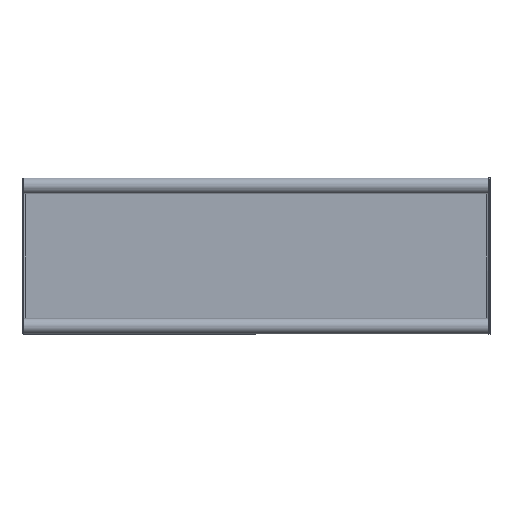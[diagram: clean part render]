
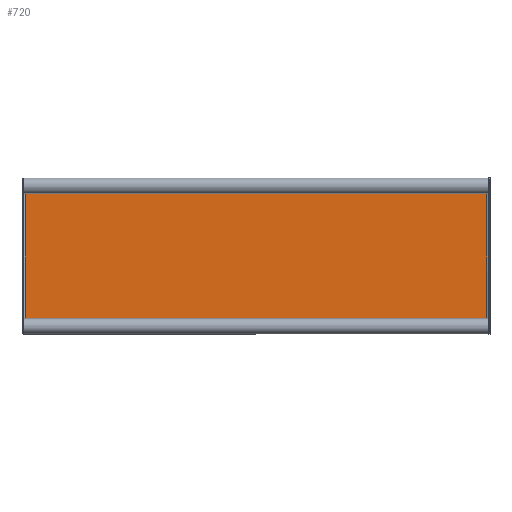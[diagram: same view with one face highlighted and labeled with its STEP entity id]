
A CAD part, front view. The second image highlights one B-rep face of the part: STEP entity #720.
In plain terms, the highlighted planar face has unit normal (0, -1, 0).
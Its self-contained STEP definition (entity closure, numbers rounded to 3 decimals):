
#164 = EDGE_CURVE ( 'NONE', #2296, #8844, #7960, .T. ) ;
#290 = VERTEX_POINT ( 'NONE', #9798 ) ;
#553 = VECTOR ( 'NONE', #976, 1000. ) ;
#720 = ADVANCED_FACE ( 'NONE', ( #1619 ), #7884, .F. ) ;
#858 = VECTOR ( 'NONE', #4653, 1000. ) ;
#860 = VERTEX_POINT ( 'NONE', #7512 ) ;
#873 = ORIENTED_EDGE ( 'NONE', *, *, #3010, .F. ) ;
#976 = DIRECTION ( 'NONE',  ( 0., 0., 1. ) ) ;
#988 = DIRECTION ( 'NONE',  ( 1., 0., 0. ) ) ;
#1012 = DIRECTION ( 'NONE',  ( 0., 1., 0. ) ) ;
#1208 = AXIS2_PLACEMENT_3D ( 'NONE', #3487, #5670, #6506 ) ;
#1446 = EDGE_CURVE ( 'NONE', #3736, #7652, #8292, .T. ) ;
#1525 = CIRCLE ( 'NONE', #1208, 5. ) ;
#1574 = CARTESIAN_POINT ( 'NONE',  ( -299., -2., -96. ) ) ;
#1619 = FACE_OUTER_BOUND ( 'NONE', #2719, .T. ) ;
#1638 = CIRCLE ( 'NONE', #7248, 5. ) ;
#1803 = DIRECTION ( 'NONE',  ( 0., -1., 0. ) ) ;
#1852 = CARTESIAN_POINT ( 'NONE',  ( -299., -2., -99. ) ) ;
#1920 = DIRECTION ( 'NONE',  ( 0., 0., 1. ) ) ;
#1975 = CARTESIAN_POINT ( 'NONE',  ( 296., -2., -99. ) ) ;
#2296 = VERTEX_POINT ( 'NONE', #3447 ) ;
#2519 = EDGE_CURVE ( 'NONE', #290, #2296, #6174, .T. ) ;
#2719 = EDGE_LOOP ( 'NONE', ( #5205, #3317, #7270, #6357, #7052, #5122, #873, #7266 ) ) ;
#3010 = EDGE_CURVE ( 'NONE', #3736, #6801, #9047, .T. ) ;
#3216 = EDGE_CURVE ( 'NONE', #6801, #290, #7842, .T. ) ;
#3317 = ORIENTED_EDGE ( 'NONE', *, *, #5074, .T. ) ;
#3326 = DIRECTION ( 'NONE',  ( 0., 0., 1. ) ) ;
#3447 = CARTESIAN_POINT ( 'NONE',  ( -295., -2., 96. ) ) ;
#3487 = CARTESIAN_POINT ( 'NONE',  ( 299., -2., 99. ) ) ;
#3736 = VERTEX_POINT ( 'NONE', #9483 ) ;
#3866 = CARTESIAN_POINT ( 'NONE',  ( -296., -2., -99. ) ) ;
#4224 = DIRECTION ( 'NONE',  ( 0., -1., 0. ) ) ;
#4267 = CARTESIAN_POINT ( 'NONE',  ( -299., -2., 99. ) ) ;
#4454 = CARTESIAN_POINT ( 'NONE',  ( 296., -2., -95. ) ) ;
#4585 = EDGE_CURVE ( 'NONE', #8844, #860, #1525, .T. ) ;
#4653 = DIRECTION ( 'NONE',  ( 1., 0., 0. ) ) ;
#4762 = AXIS2_PLACEMENT_3D ( 'NONE', #1852, #1803, #4876 ) ;
#4876 = DIRECTION ( 'NONE',  ( 0., 0., 1. ) ) ;
#5058 = CARTESIAN_POINT ( 'NONE',  ( 295., -2., 96. ) ) ;
#5074 = EDGE_CURVE ( 'NONE', #7071, #860, #5825, .T. ) ;
#5122 = ORIENTED_EDGE ( 'NONE', *, *, #3216, .F. ) ;
#5134 = DIRECTION ( 'NONE',  ( 0., -1., 0. ) ) ;
#5205 = ORIENTED_EDGE ( 'NONE', *, *, #6391, .F. ) ;
#5231 = CARTESIAN_POINT ( 'NONE',  ( 299., -2., -99. ) ) ;
#5670 = DIRECTION ( 'NONE',  ( 0., -1., 0. ) ) ;
#5825 = LINE ( 'NONE', #1975, #6163 ) ;
#6096 = CARTESIAN_POINT ( 'NONE',  ( -296., -2., -95. ) ) ;
#6163 = VECTOR ( 'NONE', #1920, 1000. ) ;
#6174 = CIRCLE ( 'NONE', #9691, 5. ) ;
#6232 = CARTESIAN_POINT ( 'NONE',  ( -299., -2., -99. ) ) ;
#6357 = ORIENTED_EDGE ( 'NONE', *, *, #164, .F. ) ;
#6391 = EDGE_CURVE ( 'NONE', #7071, #7652, #1638, .T. ) ;
#6449 = CARTESIAN_POINT ( 'NONE',  ( -299., -2., 96. ) ) ;
#6506 = DIRECTION ( 'NONE',  ( 0., 0., 1. ) ) ;
#6801 = VERTEX_POINT ( 'NONE', #6096 ) ;
#7052 = ORIENTED_EDGE ( 'NONE', *, *, #2519, .F. ) ;
#7071 = VERTEX_POINT ( 'NONE', #4454 ) ;
#7248 = AXIS2_PLACEMENT_3D ( 'NONE', #5231, #5134, #8220 ) ;
#7266 = ORIENTED_EDGE ( 'NONE', *, *, #1446, .T. ) ;
#7270 = ORIENTED_EDGE ( 'NONE', *, *, #4585, .F. ) ;
#7512 = CARTESIAN_POINT ( 'NONE',  ( 296., -2., 95. ) ) ;
#7652 = VERTEX_POINT ( 'NONE', #8703 ) ;
#7842 = LINE ( 'NONE', #3866, #553 ) ;
#7884 = PLANE ( 'NONE',  #8179 ) ;
#7960 = LINE ( 'NONE', #6449, #9678 ) ;
#8179 = AXIS2_PLACEMENT_3D ( 'NONE', #6232, #1012, #8685 ) ;
#8220 = DIRECTION ( 'NONE',  ( 0., 0., 1. ) ) ;
#8292 = LINE ( 'NONE', #1574, #858 ) ;
#8685 = DIRECTION ( 'NONE',  ( 0., 0., 1. ) ) ;
#8703 = CARTESIAN_POINT ( 'NONE',  ( 295., -2., -96. ) ) ;
#8844 = VERTEX_POINT ( 'NONE', #5058 ) ;
#9047 = CIRCLE ( 'NONE', #4762, 5. ) ;
#9483 = CARTESIAN_POINT ( 'NONE',  ( -295., -2., -96. ) ) ;
#9678 = VECTOR ( 'NONE', #988, 1000. ) ;
#9691 = AXIS2_PLACEMENT_3D ( 'NONE', #4267, #4224, #3326 ) ;
#9798 = CARTESIAN_POINT ( 'NONE',  ( -296., -2., 95. ) ) ;
